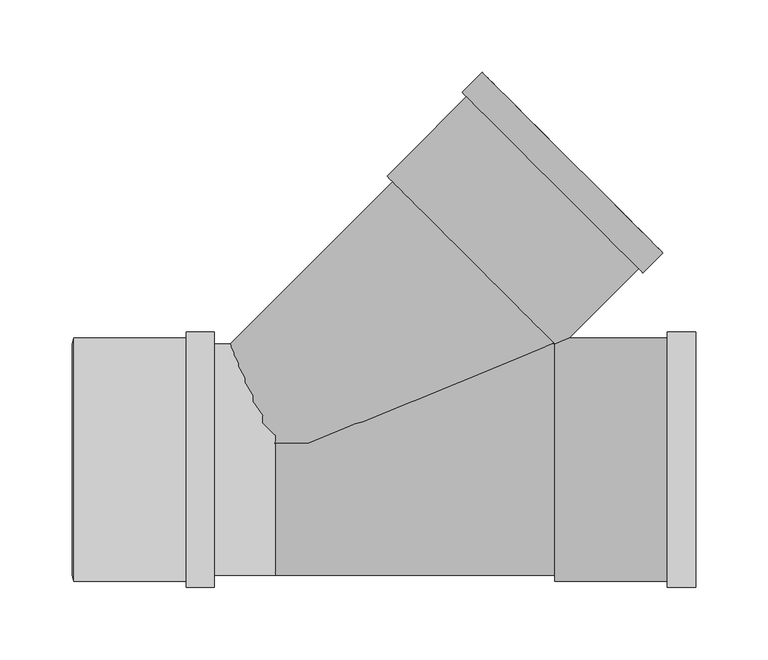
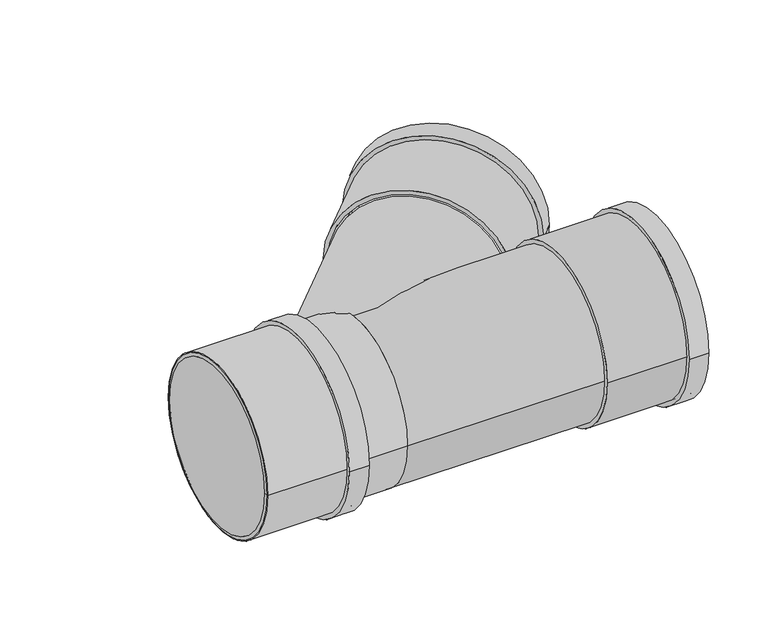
"""IFC4 building model written with IfcOpenShell, lengths in millimetres: pipe fitting geometry, Superdrain SKEA Branch : Superdrain SKEA Branch."""

from ifc_helpers import new_model, si_unit, point, frame, origin, origin_2d, place, context, project, spatial, polyline, circle_curve, ellipse_curve, trimmed, segment, composite_curve, outline, extrude, source, transform, mapped, element, save
from ifc_brep_helpers import plane_surface, cylinder_surface, revolved_surface, advanced_brep


def pipe_fitting_67dd1858(model_context):
    return source(origin(), model_context, "Body", "SolidModel", [
        extrude(outline(composite_curve([segment(trimmed(circle_curve(origin_2d(), 84.0), [point((84.0, 0.0))], [point((-84.0, 0.0))], False, "CARTESIAN"), True, "CONTINUOUS"), segment(trimmed(circle_curve(origin_2d(), 84.0), [point((-84.0, 0.0))], [point((84.0, 0.0))], False, "CARTESIAN"), True, "CONTINUOUS")], self_intersect=False), holes=[composite_curve([segment(trimmed(circle_curve(origin_2d(), 80.0), [point((80.0, 0.0))], [point((-80.0, 0.0))], True, "CARTESIAN"), True, "CONTINUOUS"), segment(trimmed(circle_curve(origin_2d(), 80.0), [point((-80.0, 0.0))], [point((80.0, 0.0))], True, "CARTESIAN"), True, "CONTINUOUS")], self_intersect=False)]), frame((-139.0, 0.0, 0.0), z_axis=(1.0, 0.0, 0.0), x_axis=(0.0, 1.0, 0.0)), (0.0, 0.0, 1.0), 97.0),
        extrude(outline(composite_curve([segment(trimmed(circle_curve(origin_2d(), 88.2), [point((88.2, 0.0))], [point((-88.2, 0.0))], False, "CARTESIAN"), True, "CONTINUOUS"), segment(trimmed(circle_curve(origin_2d(), 88.2), [point((-88.2, 0.0))], [point((88.2, 0.0))], False, "CARTESIAN"), True, "CONTINUOUS")], self_intersect=False), holes=[composite_curve([segment(trimmed(circle_curve(origin_2d(), 80.0), [point((80.0, 0.0))], [point((-80.0, 0.0))], True, "CARTESIAN"), True, "CONTINUOUS"), segment(trimmed(circle_curve(origin_2d(), 80.0), [point((-80.0, 0.0))], [point((80.0, 0.0))], True, "CARTESIAN"), True, "CONTINUOUS")], self_intersect=False)]), frame((-61.4, 0.0, 0.0), z_axis=(1.0, 0.0, 0.0), x_axis=(0.0, 1.0, 0.0)), (0.0, 0.0, 1.0), 19.4),
        advanced_brep(
        [(-140.0, 80.0, 0.0), (-140.0, -80.0, 0.0), (-139.0, 84.0, 0.0), (-139.0, -84.0, 0.0)],
        [
            (0, 1, circle_curve(frame((-140.0, 0.0, 0.0), z_axis=(-1.0, 0.0, 0.0), x_axis=(0.0, 1.0, 0.0)), 80.0)),
            (1, 0, circle_curve(frame((-140.0, 0.0, 0.0), z_axis=(-1.0, 0.0, 0.0), x_axis=(0.0, -1.0, 0.0)), 80.0)),
            (2, 3, circle_curve(frame((-139.0, 0.0, 0.0), z_axis=(1.0, 0.0, 0.0), x_axis=(0.0, -1.0, 0.0)), 84.0)),
            (3, 2, circle_curve(frame((-139.0, 0.0, 0.0), z_axis=(1.0, 0.0, 0.0), x_axis=(0.0, 1.0, 0.0)), 84.0)),
            (3, 1),
            (0, 2),
        ],
        [
            plane_surface(frame((-140.0, 0.0, 0.0), z_axis=(-1.0, 0.0, 0.0), x_axis=(0.0, 0.0, -1.0))),
            plane_surface(frame((-139.0, 0.0, 0.0), z_axis=(1.0, 0.0, 0.0), x_axis=(0.0, 0.0, -1.0))),
            revolved_surface(polyline([(-140.0, 80.0, 0.0), (-139.0, 84.0, 0.0)]), (-160.0, 0.0, 0.0), (1.0, 0.0, 0.0)),
            revolved_surface(polyline([(-140.0, -80.0, 0.0), (-139.0, -84.0, 0.0)]), (-160.0, 0.0, 0.0), (1.0, 0.0, 0.0)),
        ],
        [
            (0, [[1, 2]]),
            (1, [[3, 4]]),
            (2, [[-4, 5, -1, 6]]),
            (3, [[-3, -6, -2, -5]]),
        ],
    ),
        advanced_brep(
        [(191.9087804, 81.0344371, 0.0), (81.0344371, 191.9087804, 0.0), (-32.4743433, 78.4, 0.0), (0.0, 0.0, 78.4), (189.2743433, 78.4, 0.0), (0.0, 0.0, -78.4)],
        [
            (0, 1, circle_curve(frame((136.4716088, 136.4716088, 0.0), z_axis=(0.7071067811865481, 0.707106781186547, 0.0), x_axis=(-0.707106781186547, 0.7071067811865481, 0.0)), 78.4)),
            (1, 0, circle_curve(frame((136.4716088, 136.4716088, 0.0), z_axis=(0.7071067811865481, 0.707106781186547, 0.0), x_axis=(-0.707106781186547, 0.7071067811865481, 0.0)), 78.4)),
            (1, 2),
            (2, 3, ellipse_curve(frame((0.0, 0.0, 0.0), z_axis=(0.923879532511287, 0.38268343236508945, 0.0), x_axis=(0.38268343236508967, -0.923879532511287, 0.0)), 84.8595485, 78.4)),
            (3, 4, ellipse_curve(frame((0.0, 0.0, 0.0), z_axis=(-0.3826834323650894, 0.9238795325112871, 0.0), x_axis=(-0.9238795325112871, -0.38268343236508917, 0.0)), 204.8690729, 78.4)),
            (4, 0),
            (4, 5, ellipse_curve(frame((0.0, 0.0, 0.0), z_axis=(-0.3826834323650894, 0.9238795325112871, 0.0), x_axis=(-0.9238795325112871, -0.38268343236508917, 0.0)), 204.8690729, 78.4)),
            (5, 2, ellipse_curve(frame((0.0, 0.0, 0.0), z_axis=(0.923879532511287, 0.38268343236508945, 0.0), x_axis=(0.38268343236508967, -0.923879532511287, 0.0)), 84.8595485, 78.4)),
            (2, 4),
        ],
        [
            plane_surface(frame((136.4716088, 136.4716088, 0.0), z_axis=(0.7071067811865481, 0.707106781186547, 0.0), x_axis=(0.0, 0.0, 1.0))),
            cylinder_surface(frame((0.0, 0.0, 0.0), z_axis=(-0.7071067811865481, -0.707106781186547, 0.0), x_axis=(-0.707106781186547, 0.7071067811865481, 0.0)), 78.4),
            revolved_surface(polyline([(-189.2743432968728, 78.4, 0.0), (189.2743433, 78.4, 0.0)]), (-144.0, 0.0, 0.0), (-1.0, 0.0, 0.0)),
        ],
        [
            (0, [[1, 2]]),
            (1, [[-2, 3, 4, 5, 6]]),
            (1, [[-1, -6, 7, 8, -3]]),
            (2, [[9, -5, -4]]),
            (2, [[-9, -8, -7]]),
        ],
    ),
        advanced_brep(
        [(193.0, -84.0, 0.0), (193.0, 84.0, 0.0), (290.0, -84.0, 0.0), (290.0, 84.0, 0.0), (290.0, -80.0, 0.0), (290.0, 80.0, 0.0), (194.0, -80.0, 0.0), (194.0, 80.0, 0.0)],
        [
            (0, 1, circle_curve(frame((193.0, 0.0, 0.0), z_axis=(-1.0, 0.0, 0.0), x_axis=(0.0, 1.0, 0.0)), 84.0)),
            (1, 0, circle_curve(frame((193.0, 0.0, 0.0), z_axis=(-1.0, 0.0, 0.0), x_axis=(0.0, 1.0, 0.0)), 84.0)),
            (2, 3, circle_curve(frame((290.0, 0.0, 0.0), z_axis=(1.0, 0.0, 0.0), x_axis=(0.0, 1.0, 0.0)), 84.0)),
            (3, 2, circle_curve(frame((290.0, 0.0, 0.0), z_axis=(1.0, 0.0, 0.0), x_axis=(0.0, 1.0, 0.0)), 84.0)),
            (4, 5, circle_curve(frame((290.0, 0.0, 0.0), z_axis=(-1.0, 0.0, 0.0), x_axis=(0.0, 1.0, 0.0)), 80.0)),
            (5, 4, circle_curve(frame((290.0, 0.0, 0.0), z_axis=(-1.0, 0.0, 0.0), x_axis=(0.0, 1.0, 0.0)), 80.0)),
            (0, 2),
            (3, 1),
            (6, 7, circle_curve(frame((194.0, 0.0, 0.0), z_axis=(-1.0, 0.0, 0.0), x_axis=(0.0, 1.0, 0.0)), 80.0)),
            (7, 5),
            (4, 6),
            (7, 6, circle_curve(frame((194.0, 0.0, 0.0), z_axis=(-1.0, 0.0, 0.0), x_axis=(0.0, 1.0, 0.0)), 80.0)),
        ],
        [
            plane_surface(frame((193.0, 0.0, 0.0), z_axis=(-1.0, 0.0, 0.0), x_axis=(0.0, 0.0, 1.0))),
            plane_surface(frame((290.0, 0.0, 0.0), z_axis=(1.0, 0.0, 0.0), x_axis=(0.0, 0.0, 1.0))),
            cylinder_surface(frame((193.0, 0.0, 0.0), z_axis=(-1.0, 0.0, 0.0), x_axis=(0.0, 1.0, 0.0)), 84.0),
            revolved_surface(polyline([(194.0, 80.0, 0.0), (290.0, 80.0, 0.0)]), (194.0, 0.0, 0.0), (-1.0, 0.0, 0.0)),
            plane_surface(frame((194.0, 0.0, 0.0), z_axis=(1.0, 0.0, 0.0), x_axis=(0.0, 0.0, 1.0))),
        ],
        [
            (0, [[1, 2]]),
            (1, [[3, 4], [5, 6]]),
            (2, [[-1, 7, -4, 8]]),
            (2, [[-2, -8, -3, -7]]),
            (3, [[9, 10, -5, 11]]),
            (3, [[12, -11, -6, -10]]),
            (4, [[-12, -9]]),
        ],
    ),
        extrude(outline(composite_curve([segment(trimmed(circle_curve(origin_2d(), 88.2), [point((88.2, 0.0))], [point((-88.2, 0.0))], False, "CARTESIAN"), True, "CONTINUOUS"), segment(trimmed(circle_curve(origin_2d(), 88.2), [point((-88.2, 0.0))], [point((88.2, 0.0))], False, "CARTESIAN"), True, "CONTINUOUS")], self_intersect=False), holes=[composite_curve([segment(trimmed(circle_curve(origin_2d(), 80.0), [point((80.0, 0.0))], [point((-80.0, 0.0))], True, "CARTESIAN"), True, "CONTINUOUS"), segment(trimmed(circle_curve(origin_2d(), 80.0), [point((-80.0, 0.0))], [point((80.0, 0.0))], True, "CARTESIAN"), True, "CONTINUOUS")], self_intersect=False)]), frame((270.6, 0.0, 0.0), z_axis=(1.0, 0.0, 0.0), x_axis=(0.0, 1.0, 0.0)), (0.0, 0.0, 1.0), 19.4),
        extrude(outline(composite_curve([segment(trimmed(circle_curve(origin_2d(), 80.0), [point((80.0, 0.0))], [point((-80.0, 0.0))], False, "CARTESIAN"), True, "CONTINUOUS"), segment(trimmed(circle_curve(origin_2d(), 80.0), [point((-80.0, 0.0))], [point((80.0, 0.0))], False, "CARTESIAN"), True, "CONTINUOUS")], self_intersect=False)), frame((-139.0, 0.0, 0.0), z_axis=(1.0, 0.0, 0.0), x_axis=(0.0, 1.0, 0.0)), (0.0, 0.0, 1.0), 139.0),
        extrude(outline(composite_curve([segment(trimmed(circle_curve(origin_2d(), 80.0), [point((-80.0, 0.0))], [point((80.0, 0.0))], False, "CARTESIAN"), True, "CONTINUOUS"), segment(trimmed(circle_curve(origin_2d(), 80.0), [point((80.0, 0.0))], [point((-80.0, 0.0))], False, "CARTESIAN"), True, "CONTINUOUS")], self_intersect=False)), frame((0.0, 0.0, 0.0), z_axis=(1.0, 0.0, 0.0), x_axis=(0.0, 1.0, 0.0)), (0.0, 0.0, 1.0), 193.0),
        extrude(outline(composite_curve([segment(trimmed(circle_curve(origin_2d(), 88.2), [point((0.0, 88.2))], [point((0.0, -88.2))], False, "CARTESIAN"), True, "CONTINUOUS"), segment(trimmed(circle_curve(origin_2d(), 88.2), [point((0.0, -88.2))], [point((0.0, 88.2))], False, "CARTESIAN"), True, "CONTINUOUS")], self_intersect=False), holes=[composite_curve([segment(trimmed(circle_curve(origin_2d(), 80.0), [point((0.0, 80.0))], [point((0.0, -80.0))], True, "CARTESIAN"), True, "CONTINUOUS"), segment(trimmed(circle_curve(origin_2d(), 80.0), [point((0.0, -80.0))], [point((0.0, 80.0))], True, "CARTESIAN"), True, "CONTINUOUS")], self_intersect=False)]), frame((191.343095, 191.343095, 0.0), z_axis=(0.7071067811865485, 0.7071067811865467, 0.0), x_axis=(0.0, 0.0, 1.0)), (0.0, 0.0, 1.0), 19.4),
        extrude(outline(composite_curve([segment(trimmed(circle_curve(origin_2d(), 84.0), [point((0.0, 84.0))], [point((0.0, -84.0))], False, "CARTESIAN"), True, "CONTINUOUS"), segment(trimmed(circle_curve(origin_2d(), 84.0), [point((0.0, -84.0))], [point((0.0, 84.0))], False, "CARTESIAN"), True, "CONTINUOUS")], self_intersect=False), holes=[composite_curve([segment(trimmed(circle_curve(origin_2d(), 80.0), [point((0.0, 80.0))], [point((0.0, -80.0))], True, "CARTESIAN"), True, "CONTINUOUS"), segment(trimmed(circle_curve(origin_2d(), 80.0), [point((0.0, -80.0))], [point((0.0, 80.0))], True, "CARTESIAN"), True, "CONTINUOUS")], self_intersect=False)]), frame((136.4716088, 136.4716088, 0.0), z_axis=(0.7071067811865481, 0.707106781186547, 0.0), x_axis=(0.0, 0.0, 1.0)), (0.0, 0.0, 1.0), 97.0),
    ])


if __name__ == "__main__":
    model = new_model("IFC4")
    model_context = context("Model", 3, world=origin())
    ifc_project = project(units=[si_unit("LENGTHUNIT", "METRE", prefix="MILLI")], contexts=[model_context])
    site = spatial("IfcSite", under=ifc_project)
    building = spatial("IfcBuilding", under=site)
    placement = place(None, origin())
    pipe_fitting_shape = pipe_fitting_67dd1858(model_context)
    element("IfcPipeFitting", 1, ObjectType="Superdrain SKEA Branch : Superdrain SKEA Branch", at=placement, inside=building, context=model_context, shape_type="MappedRepresentation", body=[
        mapped(pipe_fitting_shape, transform((0.0, 0.0, 0.0), x_axis=(1.0, 0.0, 0.0), y_axis=(0.0, 1.0, 0.0), z_axis=(0.0, 0.0, 1.0))),
    ])
    save(model, "model.ifc")
